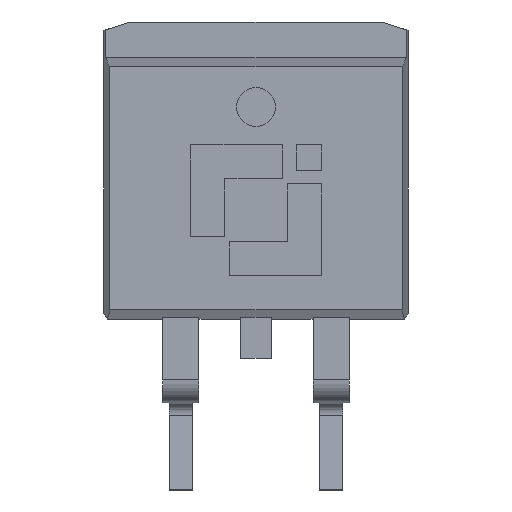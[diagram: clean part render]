
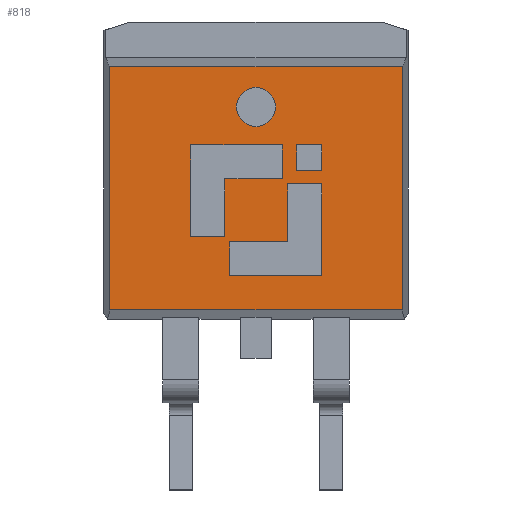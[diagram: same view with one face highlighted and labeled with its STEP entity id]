
A CAD part, top view. The second image highlights one B-rep face of the part: STEP entity #818.
In plain terms, the highlighted planar face has unit normal (0, 0, 1).
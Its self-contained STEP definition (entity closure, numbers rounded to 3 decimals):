
#634=CARTESIAN_POINT('',(0.,0.,4.56));
#635=DIRECTION('',(0.,0.,1.));
#636=DIRECTION('',(1.,0.,0.));
#637=AXIS2_PLACEMENT_3D('',#634,#635,#636);
#638=PLANE('',#637);
#639=CARTESIAN_POINT('',(-1.034,0.313,4.56));
#640=VERTEX_POINT('',#639);
#641=CARTESIAN_POINT('',(0.877,0.313,4.56));
#642=VERTEX_POINT('',#641);
#643=CARTESIAN_POINT('',(-1.034,0.313,4.56));
#644=DIRECTION('',(1.,0.,0.));
#645=VECTOR('',#644,1.911);
#646=LINE('',#643,#645);
#647=EDGE_CURVE('',#640,#642,#646,.T.);
#648=ORIENTED_EDGE('',*,*,#647,.F.);
#649=CARTESIAN_POINT('',(-1.034,-1.607,4.56));
#650=VERTEX_POINT('',#649);
#651=CARTESIAN_POINT('',(-1.034,0.313,4.56));
#652=DIRECTION('',(0.,-1.,0.));
#653=VECTOR('',#652,1.92);
#654=LINE('',#651,#653);
#655=EDGE_CURVE('',#640,#650,#654,.T.);
#656=ORIENTED_EDGE('',*,*,#655,.T.);
#657=CARTESIAN_POINT('',(-2.167,-1.607,4.56));
#658=VERTEX_POINT('',#657);
#659=CARTESIAN_POINT('',(-1.034,-1.607,4.56));
#660=DIRECTION('',(-1.,0.,0.));
#661=VECTOR('',#660,1.134);
#662=LINE('',#659,#661);
#663=EDGE_CURVE('',#650,#658,#662,.T.);
#664=ORIENTED_EDGE('',*,*,#663,.T.);
#665=CARTESIAN_POINT('',(-2.167,1.442,4.56));
#666=VERTEX_POINT('',#665);
#667=CARTESIAN_POINT('',(-2.167,1.442,4.56));
#668=DIRECTION('',(0.,-1.,0.));
#669=VECTOR('',#668,3.048);
#670=LINE('',#667,#669);
#671=EDGE_CURVE('',#666,#658,#670,.T.);
#672=ORIENTED_EDGE('',*,*,#671,.F.);
#673=CARTESIAN_POINT('',(0.877,1.442,4.56));
#674=VERTEX_POINT('',#673);
#675=CARTESIAN_POINT('',(0.877,1.442,4.56));
#676=DIRECTION('',(-1.,-0.,0.));
#677=VECTOR('',#676,3.045);
#678=LINE('',#675,#677);
#679=EDGE_CURVE('',#674,#666,#678,.T.);
#680=ORIENTED_EDGE('',*,*,#679,.F.);
#681=CARTESIAN_POINT('',(0.877,0.313,4.56));
#682=DIRECTION('',(-0.,1.,0.));
#683=VECTOR('',#682,1.129);
#684=LINE('',#681,#683);
#685=EDGE_CURVE('',#642,#674,#684,.T.);
#686=ORIENTED_EDGE('',*,*,#685,.F.);
#687=EDGE_LOOP('',(#648,#656,#664,#672,#680,#686));
#688=FACE_BOUND('',#687,.T.);
#689=CARTESIAN_POINT('',(1.346,0.6,4.56));
#690=VERTEX_POINT('',#689);
#691=CARTESIAN_POINT('',(2.179,0.6,4.56));
#692=VERTEX_POINT('',#691);
#693=CARTESIAN_POINT('',(1.346,0.6,4.56));
#694=DIRECTION('',(1.,0.,0.));
#695=VECTOR('',#694,0.833);
#696=LINE('',#693,#695);
#697=EDGE_CURVE('',#690,#692,#696,.T.);
#698=ORIENTED_EDGE('',*,*,#697,.F.);
#699=CARTESIAN_POINT('',(1.346,1.44,4.56));
#700=VERTEX_POINT('',#699);
#701=CARTESIAN_POINT('',(1.346,1.44,4.56));
#702=DIRECTION('',(0.,-1.,0.));
#703=VECTOR('',#702,0.84);
#704=LINE('',#701,#703);
#705=EDGE_CURVE('',#700,#690,#704,.T.);
#706=ORIENTED_EDGE('',*,*,#705,.F.);
#707=CARTESIAN_POINT('',(2.179,1.44,4.56));
#708=VERTEX_POINT('',#707);
#709=CARTESIAN_POINT('',(2.179,1.44,4.56));
#710=DIRECTION('',(-1.,0.,0.));
#711=VECTOR('',#710,0.833);
#712=LINE('',#709,#711);
#713=EDGE_CURVE('',#708,#700,#712,.T.);
#714=ORIENTED_EDGE('',*,*,#713,.F.);
#715=CARTESIAN_POINT('',(2.179,0.6,4.56));
#716=DIRECTION('',(-0.,1.,0.));
#717=VECTOR('',#716,0.84);
#718=LINE('',#715,#717);
#719=EDGE_CURVE('',#692,#708,#718,.T.);
#720=ORIENTED_EDGE('',*,*,#719,.F.);
#721=EDGE_LOOP('',(#698,#706,#714,#720));
#722=FACE_BOUND('',#721,.T.);
#723=CARTESIAN_POINT('',(0.65,2.7,4.56));
#724=VERTEX_POINT('',#723);
#725=CARTESIAN_POINT('',(0.,2.7,4.56));
#726=DIRECTION('',(0.,0.,1.));
#727=DIRECTION('',(1.,0.,-0.));
#728=AXIS2_PLACEMENT_3D('',#725,#726,#727);
#729=CIRCLE('',#728,0.65);
#730=EDGE_CURVE('',#724,#724,#729,.T.);
#731=ORIENTED_EDGE('',*,*,#730,.F.);
#732=EDGE_LOOP('',(#731));
#733=FACE_BOUND('',#732,.T.);
#734=CARTESIAN_POINT('',(4.855,-4.045,4.56));
#735=VERTEX_POINT('',#734);
#736=CARTESIAN_POINT('',(4.855,4.045,4.56));
#737=VERTEX_POINT('',#736);
#738=CARTESIAN_POINT('',(4.855,-4.045,4.56));
#739=DIRECTION('',(-0.,1.,0.));
#740=VECTOR('',#739,8.09);
#741=LINE('',#738,#740);
#742=EDGE_CURVE('',#735,#737,#741,.T.);
#743=ORIENTED_EDGE('',*,*,#742,.T.);
#744=CARTESIAN_POINT('',(-4.855,4.045,4.56));
#745=VERTEX_POINT('',#744);
#746=CARTESIAN_POINT('',(4.855,4.045,4.56));
#747=DIRECTION('',(-1.,-0.,0.));
#748=VECTOR('',#747,9.71);
#749=LINE('',#746,#748);
#750=EDGE_CURVE('',#737,#745,#749,.T.);
#751=ORIENTED_EDGE('',*,*,#750,.T.);
#752=CARTESIAN_POINT('',(-4.855,-4.045,4.56));
#753=VERTEX_POINT('',#752);
#754=CARTESIAN_POINT('',(-4.855,4.045,4.56));
#755=DIRECTION('',(0.,-1.,0.));
#756=VECTOR('',#755,8.09);
#757=LINE('',#754,#756);
#758=EDGE_CURVE('',#745,#753,#757,.T.);
#759=ORIENTED_EDGE('',*,*,#758,.T.);
#760=CARTESIAN_POINT('',(-4.855,-4.045,4.56));
#761=DIRECTION('',(1.,0.,0.));
#762=VECTOR('',#761,9.71);
#763=LINE('',#760,#762);
#764=EDGE_CURVE('',#753,#735,#763,.T.);
#765=ORIENTED_EDGE('',*,*,#764,.T.);
#766=EDGE_LOOP('',(#743,#751,#759,#765));
#767=FACE_BOUND('',#766,.T.);
#768=CARTESIAN_POINT('',(1.052,0.145,4.56));
#769=VERTEX_POINT('',#768);
#770=CARTESIAN_POINT('',(2.183,0.145,4.56));
#771=VERTEX_POINT('',#770);
#772=CARTESIAN_POINT('',(1.052,0.145,4.56));
#773=DIRECTION('',(1.,0.,0.));
#774=VECTOR('',#773,1.131);
#775=LINE('',#772,#774);
#776=EDGE_CURVE('',#769,#771,#775,.T.);
#777=ORIENTED_EDGE('',*,*,#776,.T.);
#778=CARTESIAN_POINT('',(2.183,-2.91,4.56));
#779=VERTEX_POINT('',#778);
#780=CARTESIAN_POINT('',(2.183,0.145,4.56));
#781=DIRECTION('',(0.,-1.,0.));
#782=VECTOR('',#781,3.055);
#783=LINE('',#780,#782);
#784=EDGE_CURVE('',#771,#779,#783,.T.);
#785=ORIENTED_EDGE('',*,*,#784,.T.);
#786=CARTESIAN_POINT('',(-0.88,-2.91,4.56));
#787=VERTEX_POINT('',#786);
#788=CARTESIAN_POINT('',(2.183,-2.91,4.56));
#789=DIRECTION('',(-1.,-0.,0.));
#790=VECTOR('',#789,3.063);
#791=LINE('',#788,#790);
#792=EDGE_CURVE('',#779,#787,#791,.T.);
#793=ORIENTED_EDGE('',*,*,#792,.T.);
#794=CARTESIAN_POINT('',(-0.88,-1.78,4.56));
#795=VERTEX_POINT('',#794);
#796=CARTESIAN_POINT('',(-0.88,-1.78,4.56));
#797=DIRECTION('',(0.,-1.,0.));
#798=VECTOR('',#797,1.13);
#799=LINE('',#796,#798);
#800=EDGE_CURVE('',#795,#787,#799,.T.);
#801=ORIENTED_EDGE('',*,*,#800,.F.);
#802=CARTESIAN_POINT('',(1.052,-1.78,4.56));
#803=VERTEX_POINT('',#802);
#804=CARTESIAN_POINT('',(-0.88,-1.78,4.56));
#805=DIRECTION('',(1.,0.,-0.));
#806=VECTOR('',#805,1.932);
#807=LINE('',#804,#806);
#808=EDGE_CURVE('',#795,#803,#807,.T.);
#809=ORIENTED_EDGE('',*,*,#808,.T.);
#810=CARTESIAN_POINT('',(1.052,-1.78,4.56));
#811=DIRECTION('',(-0.,1.,0.));
#812=VECTOR('',#811,1.925);
#813=LINE('',#810,#812);
#814=EDGE_CURVE('',#803,#769,#813,.T.);
#815=ORIENTED_EDGE('',*,*,#814,.T.);
#816=EDGE_LOOP('',(#777,#785,#793,#801,#809,#815));
#817=FACE_BOUND('',#816,.T.);
#818=ADVANCED_FACE('',(#688,#722,#733,#767,#817),#638,.T.);
